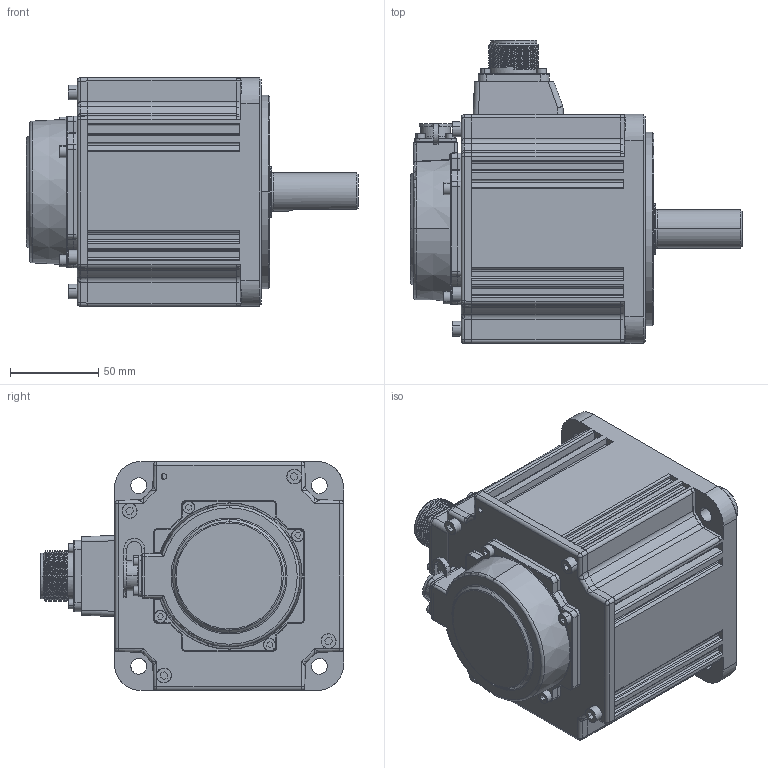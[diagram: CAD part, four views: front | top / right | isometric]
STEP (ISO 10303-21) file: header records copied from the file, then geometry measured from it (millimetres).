
FILE_DESCRIPTION (( 'STEP AP203' ), '1' );
FILE_NAME ('MS6G-130CN15B2-40P8.STEP', '2024-05-07T05:45:19', ( '' ), ( '' ), 'SwSTEP 2.0', 'SolidWorks 2022', '' );
FILE_SCHEMA (( 'CONFIG_CONTROL_DESIGN' ));
Length unit declared in the file: millimetre
Products named in the file (1): MS6G-130CN15B2-40P8
Bounding box: 188.5 x 172.1 x 130 mm (x, y, z)
Surface area: 130798.7 mm2 (no closed solid volume)
Topology: 0 solids, 29 shells, 872 faces, 2886 edges, 1998 vertices
Faces by surface type: plane 331, cylinder 280, bspline 101, torus 92, cone 60, sphere 8
Entity records: 39984 total; most frequent: CARTESIAN_POINT 16388, ORIENTED_EDGE 4834, DIRECTION 4524, EDGE_CURVE 2868, VERTEX_POINT 1998, AXIS2_PLACEMENT_3D 1657, LINE 1210, VECTOR 1210
